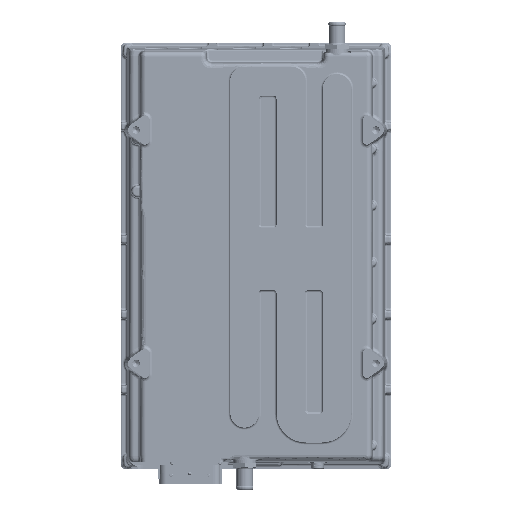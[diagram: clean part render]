
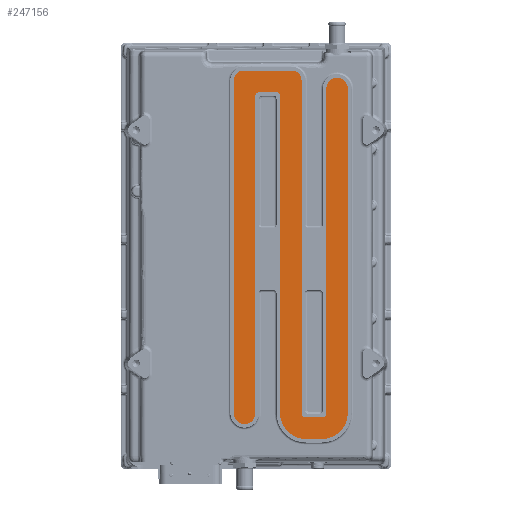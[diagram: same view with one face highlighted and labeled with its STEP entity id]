
A CAD part, front view. The second image highlights one B-rep face of the part: STEP entity #247156.
In plain terms, the highlighted planar face has unit normal (0, -1, 0).
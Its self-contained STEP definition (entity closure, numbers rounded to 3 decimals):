
#16122=FACE_OUTER_BOUND('',#32054,.T.);
#32054=EDGE_LOOP('',(#166523,#166524,#166525,#166526,#166527,#166528,#166529,
#166530,#166531,#166532,#166533,#166534,#166535,#166536,#166537,#166538,
#166539,#166540,#166541,#166542));
#52636=CIRCLE('',#265283,34.4);
#52638=CIRCLE('',#265287,14.4);
#52640=CIRCLE('',#265291,5.6);
#52642=CIRCLE('',#265295,5.6);
#52644=CIRCLE('',#265299,12.941);
#52646=CIRCLE('',#265303,12.941);
#52648=CIRCLE('',#265307,14.4);
#52650=CIRCLE('',#265311,5.6);
#52652=CIRCLE('',#265315,5.6);
#52654=CIRCLE('',#265319,34.4);
#68146=LINE('',#439723,#83650);
#68150=LINE('',#439735,#83654);
#68154=LINE('',#439747,#83658);
#68158=LINE('',#439759,#83662);
#68162=LINE('',#439771,#83666);
#68166=LINE('',#439783,#83670);
#68170=LINE('',#439795,#83674);
#68174=LINE('',#439807,#83678);
#68178=LINE('',#439819,#83682);
#68181=LINE('',#439828,#83685);
#83650=VECTOR('',#302677,1000.);
#83654=VECTOR('',#302689,1000.);
#83658=VECTOR('',#302701,1000.);
#83662=VECTOR('',#302713,1000.);
#83666=VECTOR('',#302725,1000.);
#83670=VECTOR('',#302737,1000.);
#83674=VECTOR('',#302749,1000.);
#83678=VECTOR('',#302761,1000.);
#83682=VECTOR('',#302773,1000.);
#83685=VECTOR('',#302784,1000.);
#101149=VERTEX_POINT('',#439713);
#101150=VERTEX_POINT('',#439715);
#101152=VERTEX_POINT('',#439721);
#101154=VERTEX_POINT('',#439727);
#101156=VERTEX_POINT('',#439733);
#101158=VERTEX_POINT('',#439739);
#101160=VERTEX_POINT('',#439745);
#101162=VERTEX_POINT('',#439751);
#101164=VERTEX_POINT('',#439757);
#101166=VERTEX_POINT('',#439763);
#101168=VERTEX_POINT('',#439769);
#101170=VERTEX_POINT('',#439775);
#101172=VERTEX_POINT('',#439781);
#101174=VERTEX_POINT('',#439787);
#101176=VERTEX_POINT('',#439793);
#101178=VERTEX_POINT('',#439799);
#101180=VERTEX_POINT('',#439805);
#101182=VERTEX_POINT('',#439811);
#101184=VERTEX_POINT('',#439817);
#101186=VERTEX_POINT('',#439823);
#124187=EDGE_CURVE('',#101150,#101149,#52636,.T.);
#124191=EDGE_CURVE('',#101149,#101152,#68146,.T.);
#124194=EDGE_CURVE('',#101152,#101154,#52638,.T.);
#124197=EDGE_CURVE('',#101154,#101156,#68150,.T.);
#124200=EDGE_CURVE('',#101156,#101158,#52640,.T.);
#124203=EDGE_CURVE('',#101158,#101160,#68154,.T.);
#124206=EDGE_CURVE('',#101160,#101162,#52642,.T.);
#124209=EDGE_CURVE('',#101162,#101164,#68158,.T.);
#124212=EDGE_CURVE('',#101164,#101166,#52644,.T.);
#124215=EDGE_CURVE('',#101166,#101168,#68162,.T.);
#124218=EDGE_CURVE('',#101168,#101170,#52646,.T.);
#124221=EDGE_CURVE('',#101170,#101172,#68166,.T.);
#124224=EDGE_CURVE('',#101172,#101174,#52648,.T.);
#124227=EDGE_CURVE('',#101174,#101176,#68170,.T.);
#124230=EDGE_CURVE('',#101176,#101178,#52650,.T.);
#124233=EDGE_CURVE('',#101178,#101180,#68174,.T.);
#124236=EDGE_CURVE('',#101180,#101182,#52652,.T.);
#124239=EDGE_CURVE('',#101182,#101184,#68178,.T.);
#124242=EDGE_CURVE('',#101184,#101186,#52654,.T.);
#124244=EDGE_CURVE('',#101186,#101150,#68181,.T.);
#166523=ORIENTED_EDGE('',*,*,#124187,.T.);
#166524=ORIENTED_EDGE('',*,*,#124191,.T.);
#166525=ORIENTED_EDGE('',*,*,#124194,.T.);
#166526=ORIENTED_EDGE('',*,*,#124197,.T.);
#166527=ORIENTED_EDGE('',*,*,#124200,.T.);
#166528=ORIENTED_EDGE('',*,*,#124203,.T.);
#166529=ORIENTED_EDGE('',*,*,#124206,.T.);
#166530=ORIENTED_EDGE('',*,*,#124209,.T.);
#166531=ORIENTED_EDGE('',*,*,#124212,.T.);
#166532=ORIENTED_EDGE('',*,*,#124215,.T.);
#166533=ORIENTED_EDGE('',*,*,#124218,.T.);
#166534=ORIENTED_EDGE('',*,*,#124221,.T.);
#166535=ORIENTED_EDGE('',*,*,#124224,.T.);
#166536=ORIENTED_EDGE('',*,*,#124227,.T.);
#166537=ORIENTED_EDGE('',*,*,#124230,.T.);
#166538=ORIENTED_EDGE('',*,*,#124233,.T.);
#166539=ORIENTED_EDGE('',*,*,#124236,.T.);
#166540=ORIENTED_EDGE('',*,*,#124239,.T.);
#166541=ORIENTED_EDGE('',*,*,#124242,.T.);
#166542=ORIENTED_EDGE('',*,*,#124244,.T.);
#226520=PLANE('',#265321);
#247156=ADVANCED_FACE('',(#16122),#226520,.T.);
#265283=AXIS2_PLACEMENT_3D('',#439716,#302670,#302671);
#265287=AXIS2_PLACEMENT_3D('',#439729,#302683,#302684);
#265291=AXIS2_PLACEMENT_3D('',#439741,#302695,#302696);
#265295=AXIS2_PLACEMENT_3D('',#439753,#302707,#302708);
#265299=AXIS2_PLACEMENT_3D('',#439765,#302719,#302720);
#265303=AXIS2_PLACEMENT_3D('',#439777,#302731,#302732);
#265307=AXIS2_PLACEMENT_3D('',#439789,#302743,#302744);
#265311=AXIS2_PLACEMENT_3D('',#439801,#302755,#302756);
#265315=AXIS2_PLACEMENT_3D('',#439813,#302767,#302768);
#265319=AXIS2_PLACEMENT_3D('',#439825,#302779,#302780);
#265321=AXIS2_PLACEMENT_3D('',#439829,#302785,#302786);
#302670=DIRECTION('center_axis',(0.,-1.,0.));
#302671=DIRECTION('ref_axis',(-1.,0.,0.));
#302677=DIRECTION('',(0.,0.,1.));
#302683=DIRECTION('center_axis',(0.,-1.,0.));
#302684=DIRECTION('ref_axis',(-1.,0.,0.));
#302689=DIRECTION('',(0.,0.,-1.));
#302695=DIRECTION('center_axis',(0.,1.,0.));
#302696=DIRECTION('ref_axis',(-1.,0.,0.));
#302701=DIRECTION('',(-1.,0.,0.));
#302707=DIRECTION('center_axis',(0.,1.,0.));
#302708=DIRECTION('ref_axis',(-1.,0.,0.));
#302713=DIRECTION('',(0.,0.,1.));
#302719=DIRECTION('center_axis',(0.,-1.,0.));
#302720=DIRECTION('ref_axis',(-1.,0.,0.));
#302725=DIRECTION('',(-1.,0.,0.));
#302731=DIRECTION('center_axis',(0.,-1.,0.));
#302732=DIRECTION('ref_axis',(-1.,0.,0.));
#302737=DIRECTION('',(0.,0.,-1.));
#302743=DIRECTION('center_axis',(0.,-1.,0.));
#302744=DIRECTION('ref_axis',(-1.,0.,0.));
#302749=DIRECTION('',(0.,0.,1.));
#302755=DIRECTION('center_axis',(0.,1.,0.));
#302756=DIRECTION('ref_axis',(-1.,0.,0.));
#302761=DIRECTION('',(1.,0.,0.));
#302767=DIRECTION('center_axis',(0.,1.,0.));
#302768=DIRECTION('ref_axis',(-1.,0.,0.));
#302773=DIRECTION('',(0.,0.,-1.));
#302779=DIRECTION('center_axis',(0.,-1.,0.));
#302780=DIRECTION('ref_axis',(-1.,0.,0.));
#302784=DIRECTION('',(1.,0.,0.));
#302785=DIRECTION('center_axis',(0.,-1.,0.));
#302786=DIRECTION('ref_axis',(-1.,0.,0.));
#439713=CARTESIAN_POINT('',(138.4,-19.1,-354.6));
#439715=CARTESIAN_POINT('',(104.,-19.1,-389.));
#439716=CARTESIAN_POINT('Origin',(104.,-19.1,-354.6));
#439721=CARTESIAN_POINT('',(138.4,-19.1,81.25));
#439723=CARTESIAN_POINT('',(138.4,-19.1,-354.6));
#439727=CARTESIAN_POINT('',(109.6,-19.1,81.25));
#439729=CARTESIAN_POINT('Origin',(124.,-19.1,81.25));
#439733=CARTESIAN_POINT('',(109.6,-19.1,-354.6));
#439735=CARTESIAN_POINT('',(109.6,-19.1,81.25));
#439739=CARTESIAN_POINT('',(104.,-19.1,-360.2));
#439741=CARTESIAN_POINT('Origin',(104.,-19.1,-354.6));
#439745=CARTESIAN_POINT('',(82.,-19.1,-360.2));
#439747=CARTESIAN_POINT('',(104.,-19.1,-360.2));
#439751=CARTESIAN_POINT('',(76.4,-19.1,-354.6));
#439753=CARTESIAN_POINT('Origin',(82.,-19.1,-354.6));
#439757=CARTESIAN_POINT('',(76.4,-19.1,92.459));
#439759=CARTESIAN_POINT('',(76.4,-19.1,-354.6));
#439763=CARTESIAN_POINT('',(63.459,-19.1,105.4));
#439765=CARTESIAN_POINT('Origin',(63.459,-19.1,92.459));
#439769=CARTESIAN_POINT('',(-1.459,-19.1,105.4));
#439771=CARTESIAN_POINT('',(63.459,-19.1,105.4));
#439775=CARTESIAN_POINT('',(-14.4,-19.1,92.459));
#439777=CARTESIAN_POINT('Origin',(-1.459,-19.1,92.459));
#439781=CARTESIAN_POINT('',(-14.4,-19.1,-354.6));
#439783=CARTESIAN_POINT('',(-14.4,-19.1,92.459));
#439787=CARTESIAN_POINT('',(14.4,-19.1,-354.6));
#439789=CARTESIAN_POINT('Origin',(0.,-19.1,-354.6));
#439793=CARTESIAN_POINT('',(14.4,-19.1,71.));
#439795=CARTESIAN_POINT('',(14.4,-19.1,-354.6));
#439799=CARTESIAN_POINT('',(20.,-19.1,76.6));
#439801=CARTESIAN_POINT('Origin',(20.,-19.1,71.));
#439805=CARTESIAN_POINT('',(42.,-19.1,76.6));
#439807=CARTESIAN_POINT('',(20.,-19.1,76.6));
#439811=CARTESIAN_POINT('',(47.6,-19.1,71.));
#439813=CARTESIAN_POINT('Origin',(42.,-19.1,71.));
#439817=CARTESIAN_POINT('',(47.6,-19.1,-354.6));
#439819=CARTESIAN_POINT('',(47.6,-19.1,71.));
#439823=CARTESIAN_POINT('',(82.,-19.1,-389.));
#439825=CARTESIAN_POINT('Origin',(82.,-19.1,-354.6));
#439828=CARTESIAN_POINT('',(82.,-19.1,-389.));
#439829=CARTESIAN_POINT('Origin',(104.,-19.1,-354.6));
